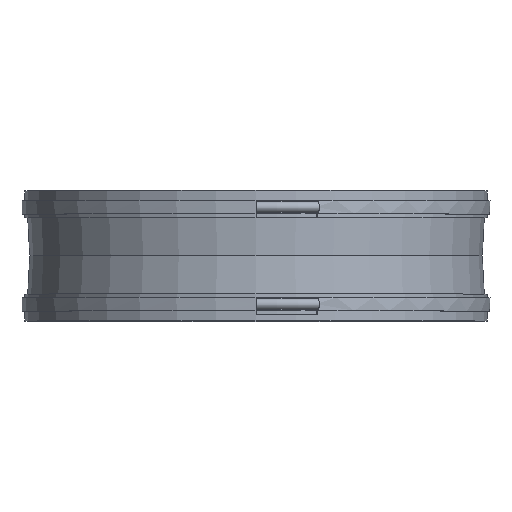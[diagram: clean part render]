
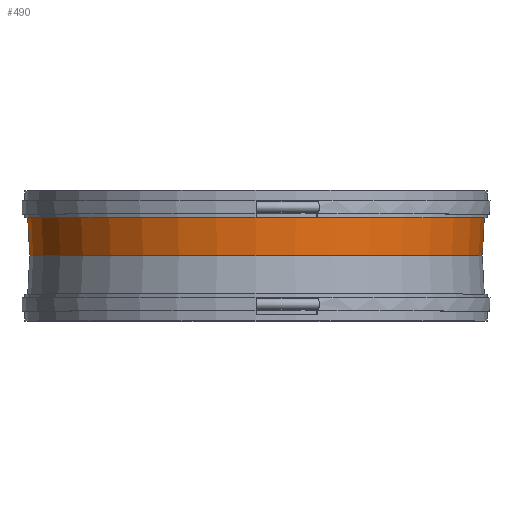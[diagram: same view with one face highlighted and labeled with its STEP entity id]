
A CAD part, top view. The second image highlights one B-rep face of the part: STEP entity #490.
In plain terms, the highlighted conical face has half-angle 3 degrees and reference radius 253.19 mm.
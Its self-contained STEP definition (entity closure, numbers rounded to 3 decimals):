
#17=CONICAL_SURFACE('',#570,253.19,3.);
#39=FACE_BOUND('',#151,.T.);
#93=FACE_OUTER_BOUND('',#150,.T.);
#150=EDGE_LOOP('',(#417));
#151=EDGE_LOOP('',(#418));
#218=CIRCLE('',#556,254.5);
#223=CIRCLE('',#569,251.88);
#258=VERTEX_POINT('',#841);
#263=VERTEX_POINT('',#859);
#310=EDGE_CURVE('',#258,#258,#218,.T.);
#315=EDGE_CURVE('',#263,#263,#223,.T.);
#417=ORIENTED_EDGE('',*,*,#315,.T.);
#418=ORIENTED_EDGE('',*,*,#310,.F.);
#490=ADVANCED_FACE('',(#93,#39),#17,.T.);
#556=AXIS2_PLACEMENT_3D('',#842,#701,#702);
#569=AXIS2_PLACEMENT_3D('',#860,#727,#728);
#570=AXIS2_PLACEMENT_3D('',#861,#729,#730);
#701=DIRECTION('center_axis',(0.,1.,0.));
#702=DIRECTION('ref_axis',(1.,0.,0.));
#727=DIRECTION('center_axis',(0.,1.,0.));
#728=DIRECTION('ref_axis',(1.,0.,0.));
#729=DIRECTION('center_axis',(0.,1.,0.));
#730=DIRECTION('ref_axis',(0.,0.,1.));
#841=CARTESIAN_POINT('',(0.,50.,254.5));
#842=CARTESIAN_POINT('Origin',(0.,50.,0.));
#859=CARTESIAN_POINT('',(0.,0.,251.88));
#860=CARTESIAN_POINT('Origin',(0.,0.,0.));
#861=CARTESIAN_POINT('Origin',(0.,25.,0.));
